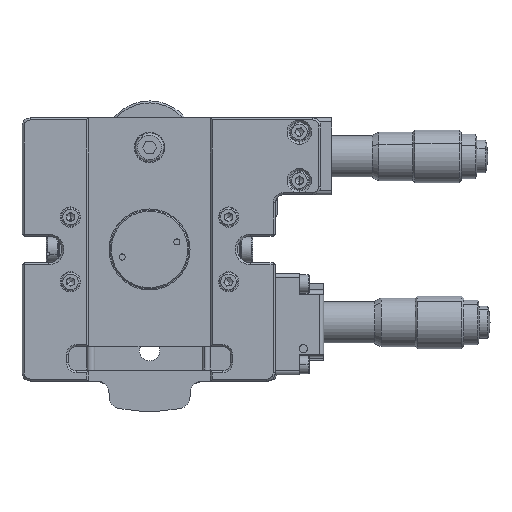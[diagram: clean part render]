
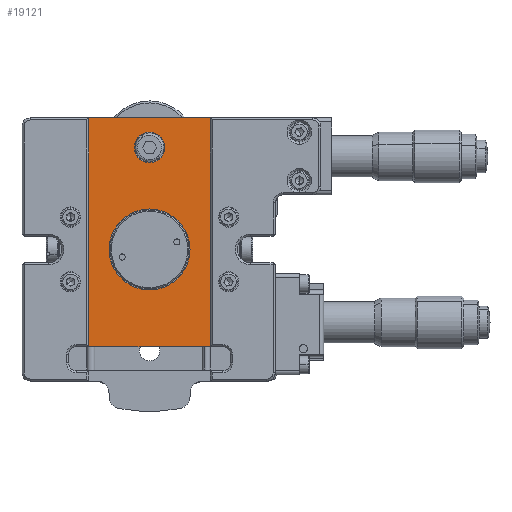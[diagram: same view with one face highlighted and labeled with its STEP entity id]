
A CAD part, front view. The second image highlights one B-rep face of the part: STEP entity #19121.
In plain terms, the highlighted planar face has unit normal (0, -1, 0).
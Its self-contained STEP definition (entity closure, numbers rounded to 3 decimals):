
#291 = AXIS2_PLACEMENT_3D ( 'NONE', #1738, #34905, #14065 ) ;
#1738 = CARTESIAN_POINT ( 'NONE',  ( 0., 0.5, 25.2 ) ) ;
#2279 = EDGE_CURVE ( 'NONE', #11074, #6843, #17030, .T. ) ;
#2354 = CARTESIAN_POINT ( 'NONE',  ( 15., 0.5, 32.5 ) ) ;
#2921 = LINE ( 'NONE', #17678, #16315 ) ;
#3127 = EDGE_CURVE ( 'NONE', #16754, #14409, #2921, .T. ) ;
#4305 = EDGE_LOOP ( 'NONE', ( #5670, #9898 ) ) ;
#4775 = DIRECTION ( 'NONE',  ( 0., 1., 0. ) ) ;
#5133 = CARTESIAN_POINT ( 'NONE',  ( 0., 0.5, 10. ) ) ;
#5427 = CARTESIAN_POINT ( 'NONE',  ( -15., 0.5, 32.5 ) ) ;
#5460 = EDGE_CURVE ( 'NONE', #6843, #11074, #23015, .T. ) ;
#5651 = CARTESIAN_POINT ( 'NONE',  ( 0., 0.5, 0. ) ) ;
#5670 = ORIENTED_EDGE ( 'NONE', *, *, #38040, .F. ) ;
#5882 = VECTOR ( 'NONE', #28513, 1000. ) ;
#6527 = CARTESIAN_POINT ( 'NONE',  ( 0., 0.5, 21.45 ) ) ;
#6843 = VERTEX_POINT ( 'NONE', #18155 ) ;
#6867 = ORIENTED_EDGE ( 'NONE', *, *, #3127, .F. ) ;
#7474 = VECTOR ( 'NONE', #35714, 1000. ) ;
#7801 = FACE_BOUND ( 'NONE', #4305, .T. ) ;
#8405 = CARTESIAN_POINT ( 'NONE',  ( 68.519, 0.5, 32.5 ) ) ;
#8977 = DIRECTION ( 'NONE',  ( 0., 0., 1. ) ) ;
#9074 = DIRECTION ( 'NONE',  ( 0., -1., 0. ) ) ;
#9106 = DIRECTION ( 'NONE',  ( 0., -1., 0. ) ) ;
#9184 = AXIS2_PLACEMENT_3D ( 'NONE', #21028, #9106, #39849 ) ;
#9898 = ORIENTED_EDGE ( 'NONE', *, *, #39805, .F. ) ;
#10693 = EDGE_CURVE ( 'NONE', #14409, #38580, #26793, .T. ) ;
#11074 = VERTEX_POINT ( 'NONE', #5133 ) ;
#11611 = ORIENTED_EDGE ( 'NONE', *, *, #15668, .T. ) ;
#13668 = ORIENTED_EDGE ( 'NONE', *, *, #10693, .F. ) ;
#14022 = EDGE_LOOP ( 'NONE', ( #6867, #11611, #18954, #13668 ) ) ;
#14065 = DIRECTION ( 'NONE',  ( 0., 0., -1. ) ) ;
#14409 = VERTEX_POINT ( 'NONE', #5427 ) ;
#15668 = EDGE_CURVE ( 'NONE', #16754, #30991, #34387, .T. ) ;
#16315 = VECTOR ( 'NONE', #8977, 1000. ) ;
#16586 = DIRECTION ( 'NONE',  ( 0., 0., -1. ) ) ;
#16754 = VERTEX_POINT ( 'NONE', #29731 ) ;
#17030 = CIRCLE ( 'NONE', #38982, 10. ) ;
#17553 = ORIENTED_EDGE ( 'NONE', *, *, #2279, .F. ) ;
#17678 = CARTESIAN_POINT ( 'NONE',  ( -15., 0.5, 0. ) ) ;
#17685 = CIRCLE ( 'NONE', #291, 3.75 ) ;
#18155 = CARTESIAN_POINT ( 'NONE',  ( 0., 0.5, -10. ) ) ;
#18161 = DIRECTION ( 'NONE',  ( 0., 0., -1. ) ) ;
#18876 = CARTESIAN_POINT ( 'NONE',  ( 15., 0.5, 0. ) ) ;
#18954 = ORIENTED_EDGE ( 'NONE', *, *, #27698, .F. ) ;
#19078 = DIRECTION ( 'NONE',  ( 0., 0., -1. ) ) ;
#19121 = ADVANCED_FACE ( 'NONE', ( #35501, #25595, #7801 ), #20122, .F. ) ;
#20122 = PLANE ( 'NONE',  #39189 ) ;
#20146 = CIRCLE ( 'NONE', #9184, 3.75 ) ;
#21028 = CARTESIAN_POINT ( 'NONE',  ( 0., 0.5, 25.2 ) ) ;
#23015 = CIRCLE ( 'NONE', #32057, 10. ) ;
#24937 = LINE ( 'NONE', #18876, #35310 ) ;
#25069 = CARTESIAN_POINT ( 'NONE',  ( -20., 0.5, -24. ) ) ;
#25303 = CARTESIAN_POINT ( 'NONE',  ( 15., 0.5, -24. ) ) ;
#25361 = VERTEX_POINT ( 'NONE', #6527 ) ;
#25595 = FACE_OUTER_BOUND ( 'NONE', #14022, .T. ) ;
#26793 = LINE ( 'NONE', #8405, #7474 ) ;
#26839 = ORIENTED_EDGE ( 'NONE', *, *, #5460, .F. ) ;
#27698 = EDGE_CURVE ( 'NONE', #38580, #30991, #24937, .T. ) ;
#28513 = DIRECTION ( 'NONE',  ( 1., 0., 0. ) ) ;
#29295 = VERTEX_POINT ( 'NONE', #29322 ) ;
#29322 = CARTESIAN_POINT ( 'NONE',  ( 0., 0.5, 28.95 ) ) ;
#29421 = DIRECTION ( 'NONE',  ( 0., 0., 1. ) ) ;
#29731 = CARTESIAN_POINT ( 'NONE',  ( -15., 0.5, -24. ) ) ;
#30991 = VERTEX_POINT ( 'NONE', #25303 ) ;
#31353 = CARTESIAN_POINT ( 'NONE',  ( 0., 0.5, 0. ) ) ;
#32057 = AXIS2_PLACEMENT_3D ( 'NONE', #31353, #38021, #16586 ) ;
#32460 = CARTESIAN_POINT ( 'NONE',  ( 0., 0.5, 0. ) ) ;
#34387 = LINE ( 'NONE', #25069, #5882 ) ;
#34905 = DIRECTION ( 'NONE',  ( 0., -1., 0. ) ) ;
#35310 = VECTOR ( 'NONE', #19078, 1000. ) ;
#35501 = FACE_BOUND ( 'NONE', #37978, .T. ) ;
#35714 = DIRECTION ( 'NONE',  ( 1., 0., 0. ) ) ;
#37978 = EDGE_LOOP ( 'NONE', ( #26839, #17553 ) ) ;
#38021 = DIRECTION ( 'NONE',  ( 0., -1., 0. ) ) ;
#38040 = EDGE_CURVE ( 'NONE', #25361, #29295, #20146, .T. ) ;
#38580 = VERTEX_POINT ( 'NONE', #2354 ) ;
#38982 = AXIS2_PLACEMENT_3D ( 'NONE', #5651, #9074, #18161 ) ;
#39189 = AXIS2_PLACEMENT_3D ( 'NONE', #32460, #4775, #29421 ) ;
#39805 = EDGE_CURVE ( 'NONE', #29295, #25361, #17685, .T. ) ;
#39849 = DIRECTION ( 'NONE',  ( 0., 0., -1. ) ) ;
